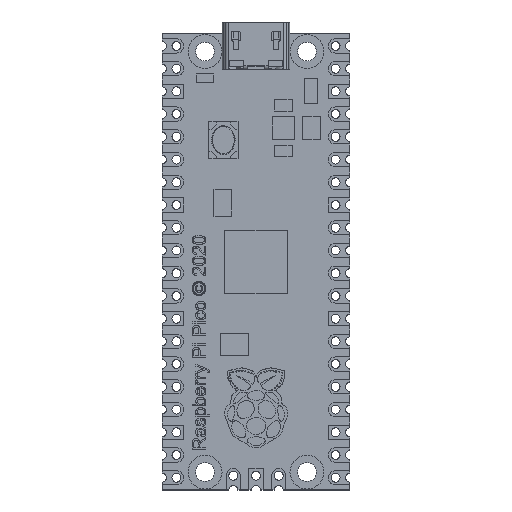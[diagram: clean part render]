
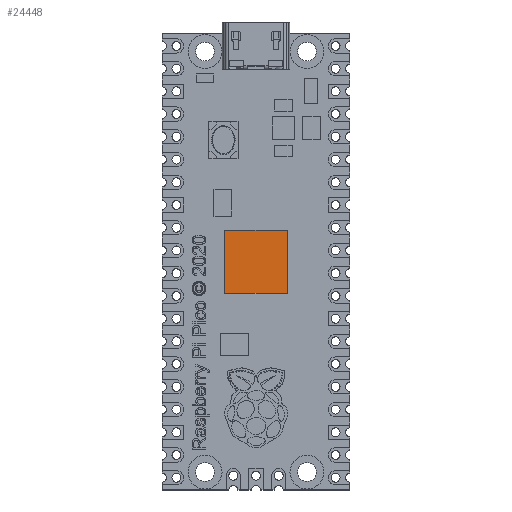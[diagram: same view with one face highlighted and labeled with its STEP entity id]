
A CAD part, top view. The second image highlights one B-rep face of the part: STEP entity #24448.
In plain terms, the highlighted planar face has unit normal (0, 0, 1).
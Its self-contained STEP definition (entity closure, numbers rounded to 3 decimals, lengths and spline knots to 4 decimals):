
#2314=FACE_OUTER_BOUND('',#3793,.T.);
#3793=EDGE_LOOP('',(#18881,#18882,#18883,#18884));
#6271=LINE('',#35272,#8645);
#6274=LINE('',#35278,#8648);
#6277=LINE('',#35284,#8651);
#6280=LINE('',#35288,#8654);
#8645=VECTOR('',#29852,10.);
#8648=VECTOR('',#29857,10.);
#8651=VECTOR('',#29862,10.);
#8654=VECTOR('',#29867,10.);
#10857=VERTEX_POINT('',#35269);
#10858=VERTEX_POINT('',#35271);
#10860=VERTEX_POINT('',#35277);
#10862=VERTEX_POINT('',#35283);
#13759=EDGE_CURVE('',#10858,#10857,#6271,.T.);
#13762=EDGE_CURVE('',#10860,#10858,#6274,.T.);
#13765=EDGE_CURVE('',#10862,#10860,#6277,.T.);
#13768=EDGE_CURVE('',#10857,#10862,#6280,.T.);
#18881=ORIENTED_EDGE('',*,*,#13768,.T.);
#18882=ORIENTED_EDGE('',*,*,#13765,.T.);
#18883=ORIENTED_EDGE('',*,*,#13762,.T.);
#18884=ORIENTED_EDGE('',*,*,#13759,.T.);
#23516=PLANE('',#26260);
#24448=ADVANCED_FACE('',(#2314),#23516,.T.);
#26260=AXIS2_PLACEMENT_3D('',#35289,#29868,#29869);
#29852=DIRECTION('',(0.,1.,0.));
#29857=DIRECTION('',(1.,0.,0.));
#29862=DIRECTION('',(0.,-1.,0.));
#29867=DIRECTION('',(-1.,0.,0.));
#29868=DIRECTION('center_axis',(0.,0.,1.));
#29869=DIRECTION('ref_axis',(1.,0.,0.));
#35269=CARTESIAN_POINT('',(3.5,3.5,1.5));
#35271=CARTESIAN_POINT('',(3.5,-3.5,1.5));
#35272=CARTESIAN_POINT('',(3.5,3.5,1.5));
#35277=CARTESIAN_POINT('',(-3.5,-3.5,1.5));
#35278=CARTESIAN_POINT('',(3.5,-3.5,1.5));
#35283=CARTESIAN_POINT('',(-3.5,3.5,1.5));
#35284=CARTESIAN_POINT('',(-3.5,-3.5,1.5));
#35288=CARTESIAN_POINT('',(-3.5,3.5,1.5));
#35289=CARTESIAN_POINT('Origin',(0.,0.,1.5));
